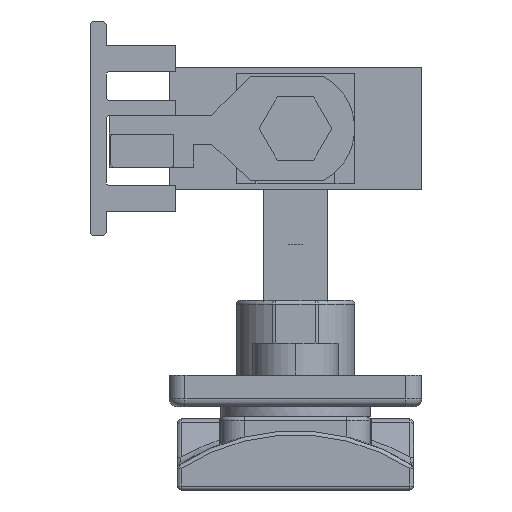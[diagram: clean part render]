
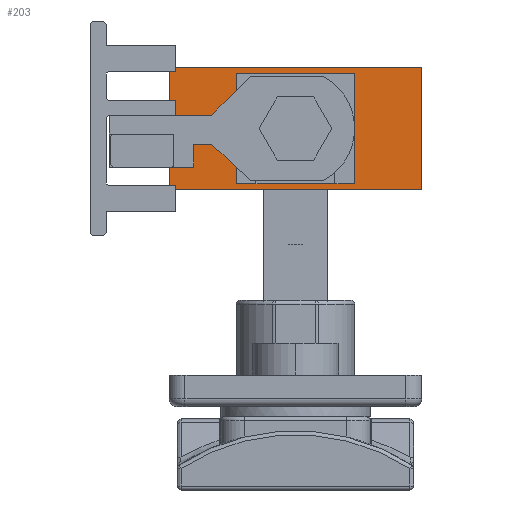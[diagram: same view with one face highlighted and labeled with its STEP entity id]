
A CAD part, front view. The second image highlights one B-rep face of the part: STEP entity #203.
In plain terms, the highlighted planar face has unit normal (0, -1, 0).
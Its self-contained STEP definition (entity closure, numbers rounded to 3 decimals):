
#41 = CARTESIAN_POINT ( 'NONE',  ( -16., -72.75, 7.75 ) ) ;
#163 = VECTOR ( 'NONE', #506, 1000. ) ;
#203 = ADVANCED_FACE ( 'NONE', ( #4434, #1599 ), #2971, .F. ) ;
#400 = ORIENTED_EDGE ( 'NONE', *, *, #4104, .F. ) ;
#506 = DIRECTION ( 'NONE',  ( 0., 0., -1. ) ) ;
#620 = VECTOR ( 'NONE', #12672, 1000. ) ;
#741 = CARTESIAN_POINT ( 'NONE',  ( -7., -72.75, -6.25 ) ) ;
#1025 = LINE ( 'NONE', #2388, #5772 ) ;
#1273 = CARTESIAN_POINT ( 'NONE',  ( 7., -72.75, 6.25 ) ) ;
#1599 = FACE_OUTER_BOUND ( 'NONE', #5385, .T. ) ;
#1827 = CARTESIAN_POINT ( 'NONE',  ( -16., -72.75, -7.75 ) ) ;
#2331 = VECTOR ( 'NONE', #10624, 1000. ) ;
#2388 = CARTESIAN_POINT ( 'NONE',  ( -16., -72.75, 7.75 ) ) ;
#2429 = VECTOR ( 'NONE', #5312, 1000. ) ;
#2455 = LINE ( 'NONE', #3829, #10034 ) ;
#2955 = ORIENTED_EDGE ( 'NONE', *, *, #3431, .F. ) ;
#2971 = PLANE ( 'NONE',  #17150 ) ;
#3431 = EDGE_CURVE ( 'NONE', #5237, #9135, #11635, .T. ) ;
#3726 = CARTESIAN_POINT ( 'NONE',  ( 7., -72.75, 6.25 ) ) ;
#3771 = VERTEX_POINT ( 'NONE', #11751 ) ;
#3829 = CARTESIAN_POINT ( 'NONE',  ( -16., -72.75, 7.75 ) ) ;
#4104 = EDGE_CURVE ( 'NONE', #17664, #4629, #4673, .T. ) ;
#4396 = EDGE_CURVE ( 'NONE', #15975, #9496, #1025, .T. ) ;
#4434 = FACE_BOUND ( 'NONE', #11643, .T. ) ;
#4629 = VERTEX_POINT ( 'NONE', #4646 ) ;
#4646 = CARTESIAN_POINT ( 'NONE',  ( 7., -72.75, -6.25 ) ) ;
#4673 = LINE ( 'NONE', #14790, #2331 ) ;
#5237 = VERTEX_POINT ( 'NONE', #3726 ) ;
#5312 = DIRECTION ( 'NONE',  ( 0., 0., 1. ) ) ;
#5344 = CARTESIAN_POINT ( 'NONE',  ( -7., -72.75, 6.25 ) ) ;
#5385 = EDGE_LOOP ( 'NONE', ( #6514, #8887, #9917, #7756 ) ) ;
#5772 = VECTOR ( 'NONE', #17204, 1000. ) ;
#6282 = EDGE_CURVE ( 'NONE', #9135, #17664, #9374, .T. ) ;
#6514 = ORIENTED_EDGE ( 'NONE', *, *, #12154, .T. ) ;
#6572 = LINE ( 'NONE', #11653, #11629 ) ;
#6922 = DIRECTION ( 'NONE',  ( -1., 0., 0. ) ) ;
#7224 = DIRECTION ( 'NONE',  ( 1., 0., 0. ) ) ;
#7575 = VERTEX_POINT ( 'NONE', #8082 ) ;
#7756 = ORIENTED_EDGE ( 'NONE', *, *, #4396, .T. ) ;
#8082 = CARTESIAN_POINT ( 'NONE',  ( 16., -72.75, -7.75 ) ) ;
#8207 = DIRECTION ( 'NONE',  ( 1., 0., 0. ) ) ;
#8230 = VECTOR ( 'NONE', #6922, 1000. ) ;
#8887 = ORIENTED_EDGE ( 'NONE', *, *, #15878, .F. ) ;
#9135 = VERTEX_POINT ( 'NONE', #5344 ) ;
#9374 = LINE ( 'NONE', #10650, #163 ) ;
#9496 = VERTEX_POINT ( 'NONE', #1827 ) ;
#9650 = LINE ( 'NONE', #9745, #620 ) ;
#9745 = CARTESIAN_POINT ( 'NONE',  ( 16., -72.75, 7.75 ) ) ;
#9796 = CARTESIAN_POINT ( 'NONE',  ( 7., -72.75, 6.25 ) ) ;
#9917 = ORIENTED_EDGE ( 'NONE', *, *, #12754, .F. ) ;
#10034 = VECTOR ( 'NONE', #8207, 1000. ) ;
#10281 = ORIENTED_EDGE ( 'NONE', *, *, #14878, .F. ) ;
#10624 = DIRECTION ( 'NONE',  ( 1., 0., 0. ) ) ;
#10650 = CARTESIAN_POINT ( 'NONE',  ( -7., -72.75, -6.25 ) ) ;
#11542 = ORIENTED_EDGE ( 'NONE', *, *, #6282, .F. ) ;
#11629 = VECTOR ( 'NONE', #7224, 1000. ) ;
#11635 = LINE ( 'NONE', #1273, #8230 ) ;
#11643 = EDGE_LOOP ( 'NONE', ( #11542, #2955, #10281, #400 ) ) ;
#11653 = CARTESIAN_POINT ( 'NONE',  ( -16., -72.75, -7.75 ) ) ;
#11751 = CARTESIAN_POINT ( 'NONE',  ( 16., -72.75, 7.75 ) ) ;
#11955 = DIRECTION ( 'NONE',  ( 0., 1., 0. ) ) ;
#12154 = EDGE_CURVE ( 'NONE', #9496, #7575, #6572, .T. ) ;
#12672 = DIRECTION ( 'NONE',  ( 0., 0., -1. ) ) ;
#12754 = EDGE_CURVE ( 'NONE', #15975, #3771, #2455, .T. ) ;
#14185 = LINE ( 'NONE', #9796, #2429 ) ;
#14790 = CARTESIAN_POINT ( 'NONE',  ( -7., -72.75, -6.25 ) ) ;
#14878 = EDGE_CURVE ( 'NONE', #4629, #5237, #14185, .T. ) ;
#15878 = EDGE_CURVE ( 'NONE', #3771, #7575, #9650, .T. ) ;
#15975 = VERTEX_POINT ( 'NONE', #16044 ) ;
#16044 = CARTESIAN_POINT ( 'NONE',  ( -16., -72.75, 7.75 ) ) ;
#17150 = AXIS2_PLACEMENT_3D ( 'NONE', #41, #11955, #17890 ) ;
#17204 = DIRECTION ( 'NONE',  ( 0., 0., -1. ) ) ;
#17664 = VERTEX_POINT ( 'NONE', #741 ) ;
#17890 = DIRECTION ( 'NONE',  ( 0., 0., 1. ) ) ;
